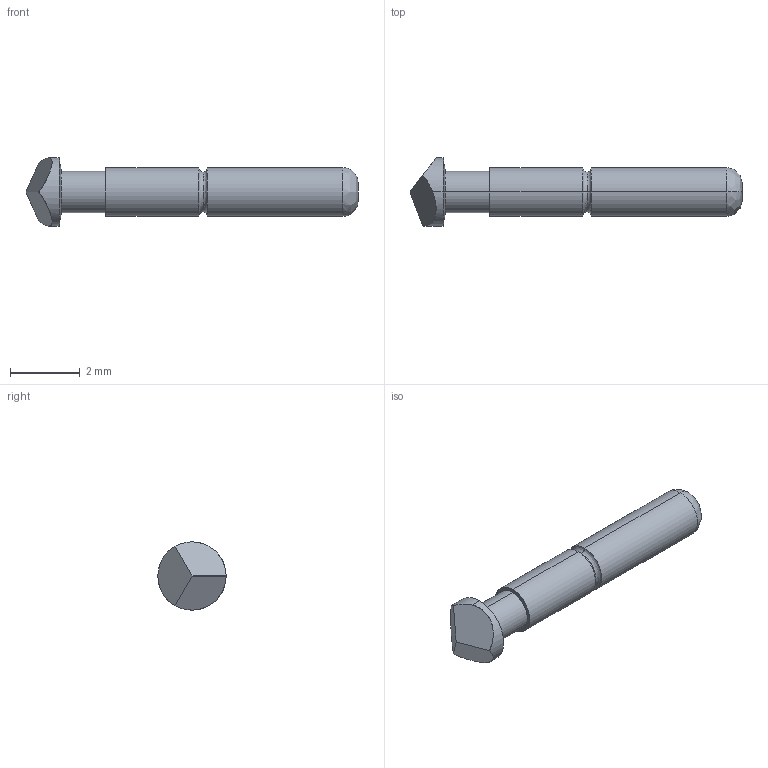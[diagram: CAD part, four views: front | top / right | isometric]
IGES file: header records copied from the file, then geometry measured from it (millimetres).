
Start section: SolidWorks IGES file using analytic representation for surfaces
Global section: file name: Z:\probe solid model mockups\Solidworks models\IGES Files\HPA-64\HPA-64-1.IGS; native system: SolidWorks 2006 by SolidWorks Corporation; preprocessor: SolidWorks 2006 by SolidWorks Corporation; author: tsakatani; date: 071220.095918; units: inch
Bounding box: 9.53 x 1.96 x 1.96 mm (x, y, z)
Surface area: 45.7 mm2 (no closed solid volume)
Topology: 0 solids, 0 shells, 21 faces, 162 edges, 162 vertices
Faces by surface type: bspline 11, revolution 10
